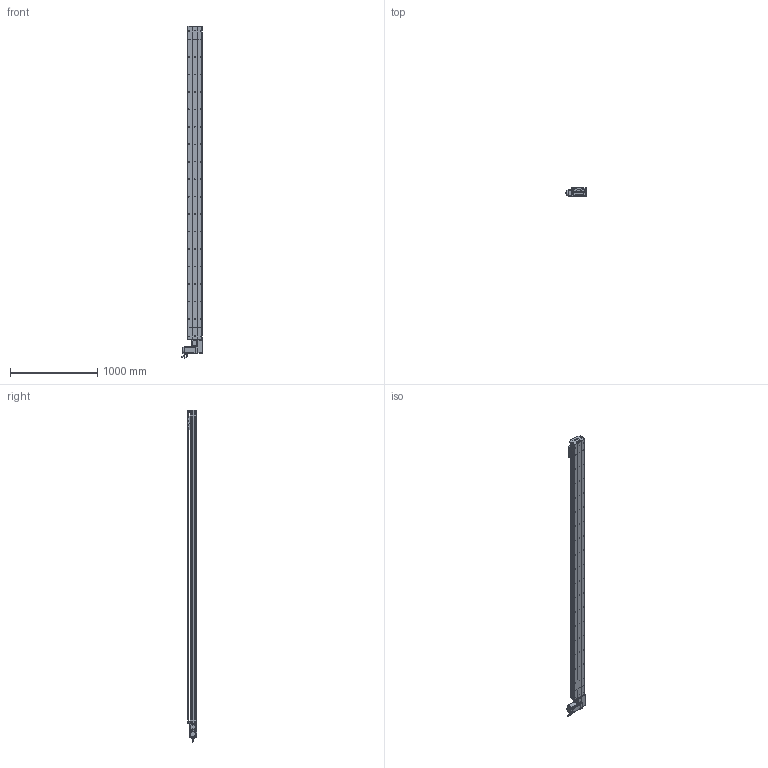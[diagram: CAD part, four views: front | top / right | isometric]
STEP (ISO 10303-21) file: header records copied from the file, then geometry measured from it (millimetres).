
FILE_DESCRIPTION (( 'STEP AP214' ), '1' );
FILE_NAME ('D17 TBH LH S3300.STEP', '2010-06-30T09:12:40', ( 'Christophe Gaillard' ), ( 'SGA' ), 'SwSTEP 2.0', 'SolidWorks 2010', '' );
FILE_SCHEMA (( 'AUTOMOTIVE_DESIGN' ));
Length unit declared in the file: millimetre
Products named in the file (40): plaque de  bout tail D17B_Default; avant 90BLDC125A-640; poulie tail_Default; poulie head_Default; guide D17; couvercle D17B course L3300_Default; corp D17B 3300_Default; Couroie+ rail D17 Course 3300 ; Plaque racord D17_Default; couvercle D17B_Default; vis M5 L12_Default; vis M5 L5_Default; cache D17_Default; vis M5 L16_Default; Vis M5 L16-2_Default; Tail D17B+100_Default; corp tail D17B+100_Default; corps 90BLDC125A-640; Arbre+rail head D17B; couvercle D17B head_Default; Chariot D17; corpl head D17 _Default; Head LH D17B_Default; chariot D17S_Default; Conecteur2_Default; D17 TBH LH S3300; course 3300 D17B_Default; Conecteur_Default; Moteur motionking 90BLDC125A-640; codeur 90BLDC125-640; cache arbre D17_Default; couroie head D17_Default; Renvoi LH_Default; tete d''axe poulie D17B; vis M5 L8 90°_Default; Rail D17B; vis M5 L25_Default; Couroie tail D17B_Default; plaque de  bout head D17B LH_Default; vis M5 L70_Default
Assembly tree (70 placements, depth 4):
  D17 TBH LH S3300
    course 3300 D17B_Default
      corp D17B 3300_Default
      couvercle D17B course L3300_Default
      Couroie+ rail D17 Course 3300 
    chariot D17S_Default
      vis M5 L12_Default  x4
      Chariot D17
      guide D17  x2
    Head LH D17B_Default
      cache D17_Default  x2
      Moteur motionking 90BLDC125A-640
        codeur 90BLDC125-640
        corps 90BLDC125A-640
        Conecteur2_Default
        avant 90BLDC125A-640
        Conecteur_Default
      vis M5 L16_Default  x2
      vis M5 L12_Default  x8
      vis M5 L70_Default  x4
      corpl head D17 _Default
      vis M5 L25_Default  x2
      Vis M5 L16-2_Default  x4
      plaque de  bout head D17B LH_Default
      vis M5 L5_Default  x4
      Plaque racord D17_Default
      Renvoi LH_Default
      poulie head_Default
      couvercle D17B head_Default
      couroie head D17_Default
      Arbre+rail head D17B
      cache arbre D17_Default
    Tail D17B+100_Default
      Rail D17B
      vis M5 L25_Default  x2
      poulie tail_Default
      vis M5 L12_Default  x4
      tete d''axe poulie D17B
      Couroie tail D17B_Default
      vis M5 L8 90°_Default  x2
      couvercle D17B_Default
      corp tail D17B+100_Default
      plaque de  bout tail D17B_Default
Bounding box: 245.2 x 105.65 x 3800.95 mm (x, y, z)
Volume: 21012868.6 mm3; surface area: 6141549.1 mm2
Topology: 94 solids, 94 shells, 2801 faces, 7191 edges, 4626 vertices
Faces by surface type: plane 1611, cylinder 877, bspline 136, cone 88, torus 85, sphere 4
Entity records: 89002 total; most frequent: CARTESIAN_POINT 25995, ORIENTED_EDGE 11154, DIRECTION 10550, EDGE_CURVE 5577, VERTEX_POINT 3650, LINE 3600, VECTOR 3600, AXIS2_PLACEMENT_3D 3475
